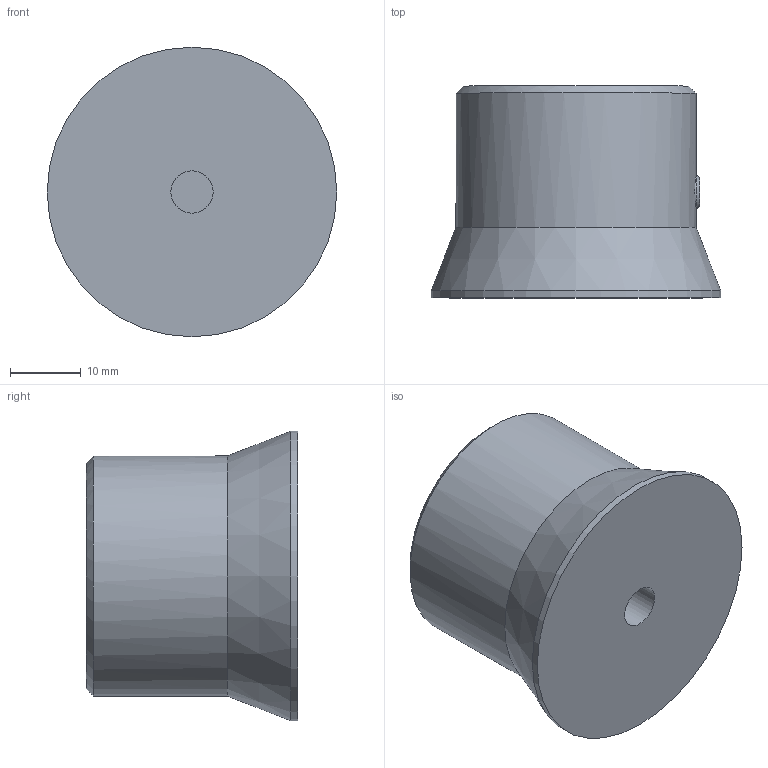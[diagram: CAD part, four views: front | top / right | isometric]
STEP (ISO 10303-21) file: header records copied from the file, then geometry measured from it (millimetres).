
FILE_DESCRIPTION( ( 'STEP AP203' ), '1' );
FILE_NAME( 'C:/Temp/Ganter_Step_05_03_2020/data/1_4/gn_726_2/gn_726_2_b/gn_726_2_b_1/Control knob GN 726.2-34-B6-B-1.stp', '2020-03-05T10:50:02', ( 'License CC BY-ND 4.0' ), ( 'CADENAS' ), ' ', 'PARTsolutions', ' ' );
FILE_SCHEMA( ( 'CONFIG_CONTROL_DESIGN' ) );
Length unit declared in the file: millimetre
Products named in the file (1): _Control knob GN 726.2-34-B6-B-1
Bounding box: 41 x 30 x 41 mm (x, y, z)
Volume: 28322.7 mm3; surface area: 6130.8 mm2
Topology: 1 solids, 1 shells, 122 faces, 345 edges, 228 vertices
Faces by surface type: cylinder 81, plane 37, cone 4
Full cylindrical faces by diameter (mm): 6 x1, 34 x1, 41 x1
Entity records: 4338 total; most frequent: CARTESIAN_POINT 1263, ORIENTED_EDGE 674, DIRECTION 581, EDGE_CURVE 337, VERTEX_POINT 227, AXIS2_PLACEMENT_3D 218, LINE 145, VECTOR 145
